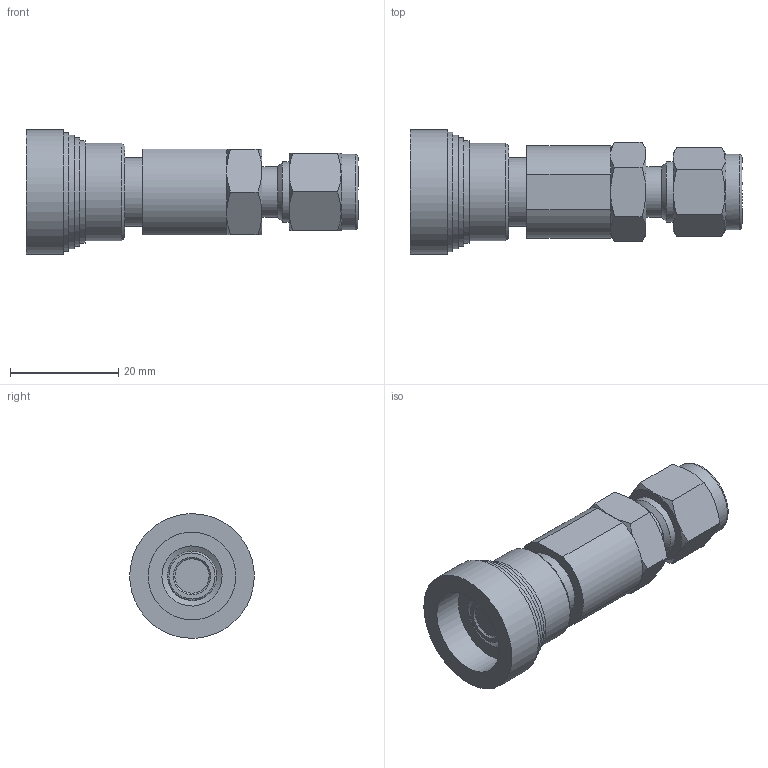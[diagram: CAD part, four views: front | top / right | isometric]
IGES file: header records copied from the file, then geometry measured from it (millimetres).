
Global section: file name: SQC1B-S4; native system: Autodesk Inventor 2016; preprocessor: unknown; author: 이승민,,11,0; organization: 20170206.113231; date: 20170208.203443; units: millimetre
Bounding box: 61.31 x 23 x 22.98 mm (x, y, z)
Volume: 12246.9 mm3; surface area: 5124.6 mm2
Topology: 1 solids, 1 shells, 78 faces, 190 edges, 130 vertices
Faces by surface type: bspline 78
